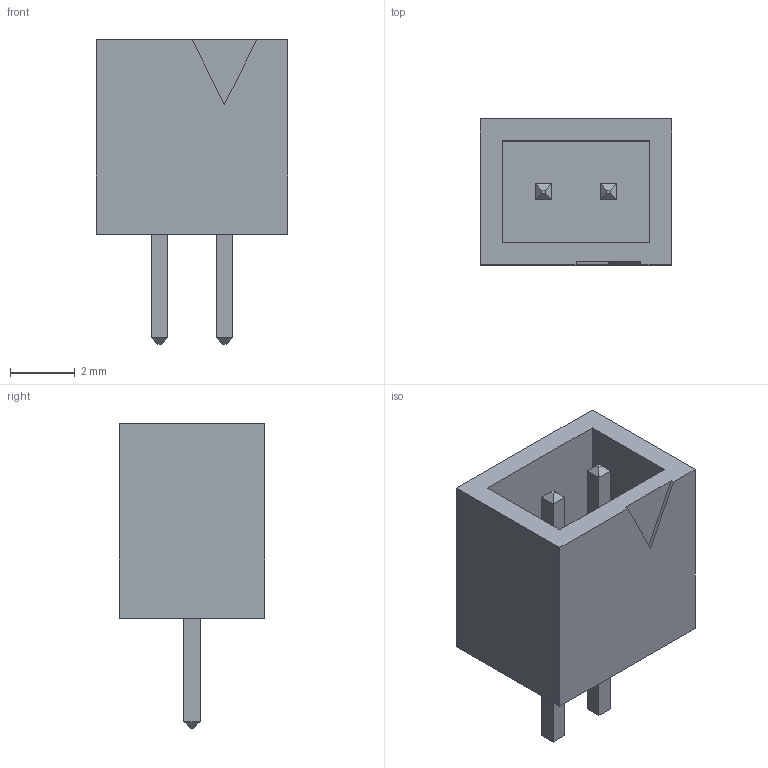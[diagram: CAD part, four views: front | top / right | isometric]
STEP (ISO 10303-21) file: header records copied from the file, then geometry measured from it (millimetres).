
FILE_DESCRIPTION(('FreeCAD Model'),'2;1');
FILE_NAME('/var/www/3D/0T/239347.3.1.stp','2020-08-31T12:17:37',( 'Author'),(''),'Open CASCADE STEP processor 6.9','FreeCAD','Unknown' );
FILE_SCHEMA(('AUTOMOTIVE_DESIGN { 1 0 10303 214 1 1 1 1 }'));
Length unit declared in the file: millimetre
Products named in the file (3): ASSEMBLY; Body; LeadsArray
Assembly tree (2 placements, depth 2):
  ASSEMBLY
    Body
    LeadsArray
Bounding box: 5.9 x 4.5 x 9.4 mm (x, y, z)
Volume: 107.8 mm3; surface area: 275.6 mm2
Topology: 3 solids, 3 shells, 42 faces, 89 edges, 54 vertices
Faces by surface type: plane 42
Entity records: 2315 total; most frequent: CARTESIAN_POINT 366, DIRECTION 357, LINE 267, VECTOR 267, ORIENTED_EDGE 178, PCURVE 178, DEFINITIONAL_REPRESENTATION 178, EDGE_CURVE 89
